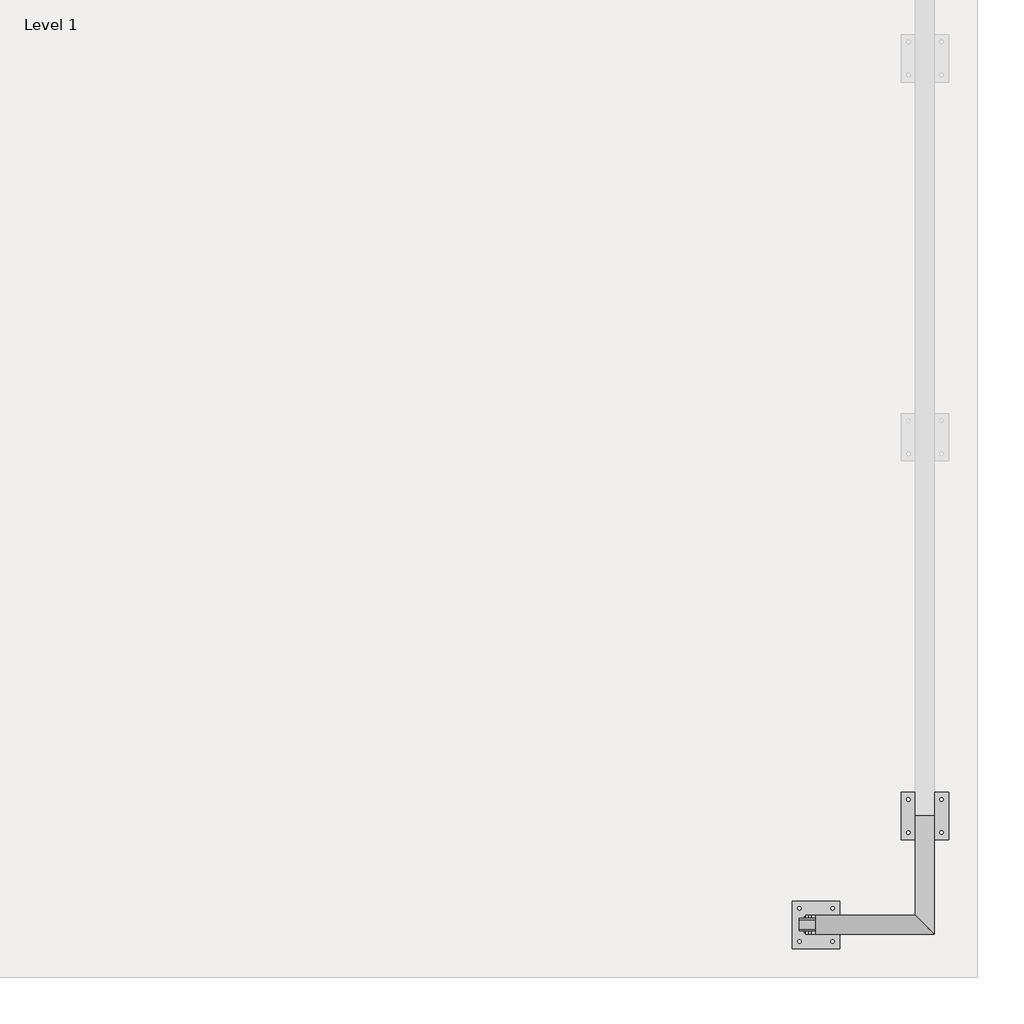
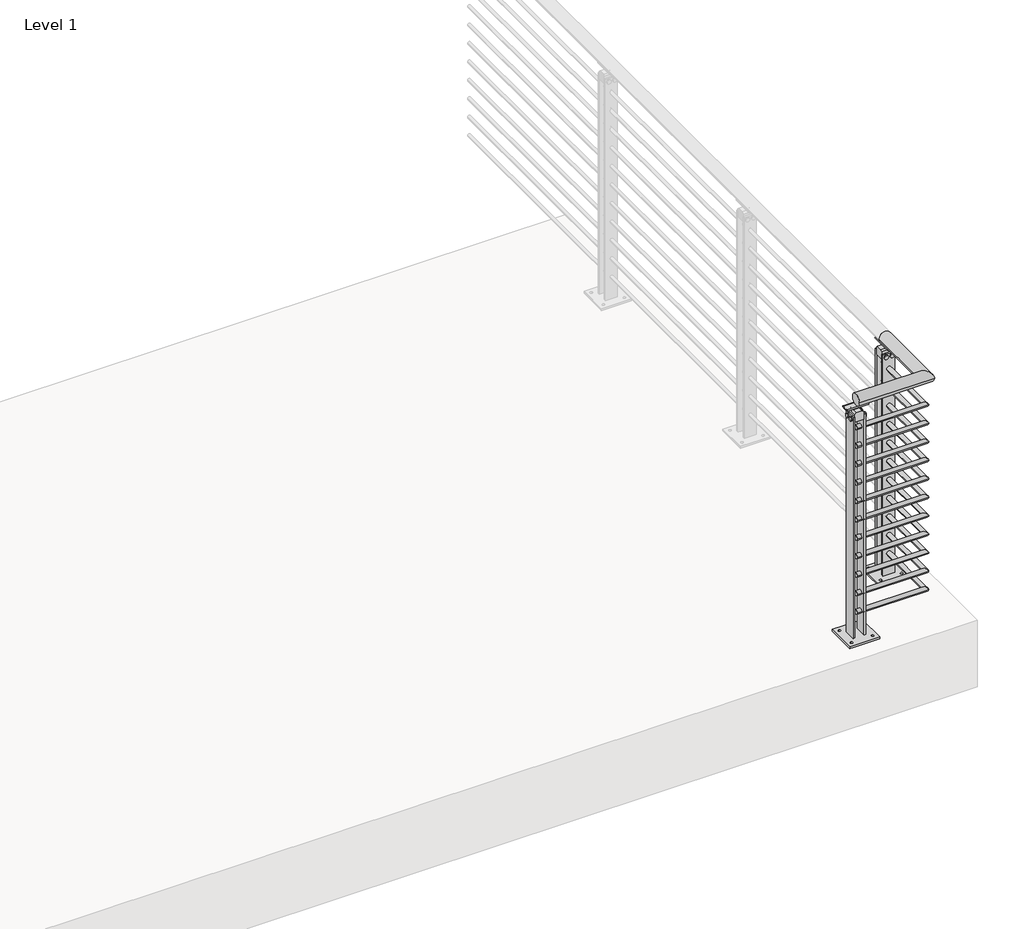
# One storey, part 7 of 36: 1 railing.
"""IFC4 building model written with IfcOpenShell, lengths in millimetres."""

from ifc_helpers import new_model, si_unit, point, frame, frame_2d, origin, origin_with_axes, place, context, project, spatial, polyline, circle_curve, ellipse_curve, trimmed, segment, composite_curve, outline, extrude, element, save
from ifc_brep_helpers import plane_surface, cylinder_surface, revolved_surface, advanced_brep

model = new_model("IFC4")

# Units and contexts
model_context = context("Model", 3, world=origin())
ifc_project = project(units=[si_unit("LENGTHUNIT", "METRE", prefix="MILLI")], contexts=[model_context])

# Site, building, storey
site = spatial("IfcSite", under=ifc_project)
building = spatial("IfcBuilding", under=site)
storey = spatial("IfcBuildingStorey", under=building, Name="Level 1", Elevation=0.0)

# Railing
placement = place(None, origin())
element("IfcRailing", 1, ObjectType="VIVA-BLADE-Multiline-Floor Mount-Corner", at=placement, inside=storey, context=model_context, shape_type="SolidModel", body=[
    advanced_brep(
    [(19310.5155247, -74900.9334719, 1054.1), (19310.5155247, -74850.1334719, 1054.1), (19628.0155247, -74900.9334719, 1054.1), (19577.2155247, -74850.1334719, 1054.1), (19628.0155247, -74583.4334719, 1054.1), (19577.2155247, -74583.4334719, 1054.1)],
    [
        (0, 1, circle_curve(frame((19310.5155247, -74875.5334719, 1054.1), z_axis=(-1.0, 0.0, 0.0), x_axis=(0.0, 1.0, 0.0)), 25.4)),
        (1, 0, circle_curve(frame((19310.5155247, -74875.5334719, 1054.1), z_axis=(-1.0, 0.0, 0.0), x_axis=(0.0, 1.0, 0.0)), 25.4)),
        (0, 2),
        (2, 3, ellipse_curve(frame((19602.6155247, -74875.5334719, 1054.1), z_axis=(-0.7071067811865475, -0.7071067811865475, 0.0), x_axis=(-0.7071067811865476, 0.7071067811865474, 0.0)), 35.9210245, 25.4)),
        (3, 1),
        (3, 2, ellipse_curve(frame((19602.6155247, -74875.5334719, 1054.1), z_axis=(-0.7071067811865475, -0.7071067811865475, 0.0), x_axis=(-0.7071067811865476, 0.7071067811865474, 0.0)), 35.9210245, 25.4)),
        (4, 5, circle_curve(frame((19602.6155247, -74583.4334719, 1054.1), z_axis=(0.0, 1.0, 0.0), x_axis=(-1.0, 0.0, 0.0)), 25.4)),
        (5, 4, circle_curve(frame((19602.6155247, -74583.4334719, 1054.1), z_axis=(0.0, 1.0, 0.0), x_axis=(-1.0, 0.0, 0.0)), 25.4)),
        (2, 4),
        (5, 3),
    ],
    [
        plane_surface(frame((19310.5155247, -74875.5334719, 1079.5), z_axis=(-1.0, 0.0, 0.0), x_axis=(0.0, 1.0, 0.0))),
        cylinder_surface(frame((19310.5155247, -74875.5334719, 1054.1), z_axis=(-1.0, 0.0, 0.0), x_axis=(0.0, 1.0, 0.0)), 25.4),
        plane_surface(frame((19602.6155247, -74583.4334719, 1079.5), z_axis=(0.0, 1.0, 0.0), x_axis=(0.0, 0.0, 1.0))),
        cylinder_surface(frame((19602.6155247, -74875.5334719, 1054.1), z_axis=(0.0, -1.0, 0.0), x_axis=(-1.0, 0.0, 0.0)), 25.4),
    ],
    [
        (0, [[1, 2]]),
        (1, [[-1, 3, 4, 5]]),
        (1, [[-2, -5, 6, -3]]),
        (2, [[7, 8]]),
        (3, [[-4, 9, -8, 10]]),
        (3, [[-6, -10, -7, -9]]),
    ],
),
    advanced_brep(
    [(19310.5155247, -74866.0084719, 930.275), (19310.5155247, -74885.0584719, 930.275), (19593.0905247, -74866.0084719, 930.275), (19612.1405247, -74885.0584719, 930.275), (19593.0905247, -74583.4334719, 930.275), (19612.1405247, -74583.4334719, 930.275)],
    [
        (0, 1, circle_curve(frame((19310.5155247, -74875.5334719, 930.275), z_axis=(-1.0, 0.0, 0.0), x_axis=(0.0, -1.0, 0.0)), 9.525)),
        (1, 0, circle_curve(frame((19310.5155247, -74875.5334719, 930.275), z_axis=(-1.0, 0.0, 0.0), x_axis=(0.0, -1.0, 0.0)), 9.525)),
        (0, 2),
        (2, 3, ellipse_curve(frame((19602.6155247, -74875.5334719, 930.275), z_axis=(-0.7071067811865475, -0.7071067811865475, 0.0), x_axis=(-0.7071067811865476, 0.7071067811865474, 0.0)), 13.4703842, 9.525)),
        (3, 1),
        (3, 2, ellipse_curve(frame((19602.6155247, -74875.5334719, 930.275), z_axis=(-0.7071067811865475, -0.7071067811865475, 0.0), x_axis=(-0.7071067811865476, 0.7071067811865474, 0.0)), 13.4703842, 9.525)),
        (4, 5, circle_curve(frame((19602.6155247, -74583.4334719, 930.275), z_axis=(0.0, 1.0, 0.0), x_axis=(1.0, 0.0, 0.0)), 9.525)),
        (5, 4, circle_curve(frame((19602.6155247, -74583.4334719, 930.275), z_axis=(0.0, 1.0, 0.0), x_axis=(1.0, 0.0, 0.0)), 9.525)),
        (2, 4),
        (5, 3),
    ],
    [
        plane_surface(frame((19310.5155247, -74875.5334719, 939.8), z_axis=(-1.0, 0.0, 0.0), x_axis=(0.0, 1.0, 0.0))),
        cylinder_surface(frame((19310.5155247, -74875.5334719, 930.275), z_axis=(-1.0, 0.0, 0.0), x_axis=(0.0, -1.0, 0.0)), 9.525),
        plane_surface(frame((19602.6155247, -74583.4334719, 939.8), z_axis=(0.0, 1.0, 0.0), x_axis=(0.0, 0.0, 1.0))),
        cylinder_surface(frame((19602.6155247, -74875.5334719, 930.275), z_axis=(0.0, -1.0, 0.0), x_axis=(1.0, 0.0, 0.0)), 9.525),
    ],
    [
        (0, [[1, 2]]),
        (1, [[-1, 3, 4, 5]]),
        (1, [[-2, -5, 6, -3]]),
        (2, [[7, 8]]),
        (3, [[-4, 9, -8, 10]]),
        (3, [[-6, -10, -7, -9]]),
    ],
),
    advanced_brep(
    [(19310.5155247, -74866.0084719, 847.725), (19310.5155247, -74885.0584719, 847.725), (19593.0905247, -74866.0084719, 847.725), (19612.1405247, -74885.0584719, 847.725), (19593.0905247, -74583.4334719, 847.725), (19612.1405247, -74583.4334719, 847.725)],
    [
        (0, 1, circle_curve(frame((19310.5155247, -74875.5334719, 847.725), z_axis=(-1.0, 0.0, 0.0), x_axis=(0.0, -1.0, 0.0)), 9.525)),
        (1, 0, circle_curve(frame((19310.5155247, -74875.5334719, 847.725), z_axis=(-1.0, 0.0, 0.0), x_axis=(0.0, -1.0, 0.0)), 9.525)),
        (0, 2),
        (2, 3, ellipse_curve(frame((19602.6155247, -74875.5334719, 847.725), z_axis=(-0.7071067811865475, -0.7071067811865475, 0.0), x_axis=(-0.7071067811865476, 0.7071067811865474, 0.0)), 13.4703842, 9.525)),
        (3, 1),
        (3, 2, ellipse_curve(frame((19602.6155247, -74875.5334719, 847.725), z_axis=(-0.7071067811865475, -0.7071067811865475, 0.0), x_axis=(-0.7071067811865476, 0.7071067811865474, 0.0)), 13.4703842, 9.525)),
        (4, 5, circle_curve(frame((19602.6155247, -74583.4334719, 847.725), z_axis=(0.0, 1.0, 0.0), x_axis=(1.0, 0.0, 0.0)), 9.525)),
        (5, 4, circle_curve(frame((19602.6155247, -74583.4334719, 847.725), z_axis=(0.0, 1.0, 0.0), x_axis=(1.0, 0.0, 0.0)), 9.525)),
        (2, 4),
        (5, 3),
    ],
    [
        plane_surface(frame((19310.5155247, -74875.5334719, 857.25), z_axis=(-1.0, 0.0, 0.0), x_axis=(0.0, 1.0, 0.0))),
        cylinder_surface(frame((19310.5155247, -74875.5334719, 847.725), z_axis=(-1.0, 0.0, 0.0), x_axis=(0.0, -1.0, 0.0)), 9.525),
        plane_surface(frame((19602.6155247, -74583.4334719, 857.25), z_axis=(0.0, 1.0, 0.0), x_axis=(0.0, 0.0, 1.0))),
        cylinder_surface(frame((19602.6155247, -74875.5334719, 847.725), z_axis=(0.0, -1.0, 0.0), x_axis=(1.0, 0.0, 0.0)), 9.525),
    ],
    [
        (0, [[1, 2]]),
        (1, [[-1, 3, 4, 5]]),
        (1, [[-2, -5, 6, -3]]),
        (2, [[7, 8]]),
        (3, [[-4, 9, -8, 10]]),
        (3, [[-6, -10, -7, -9]]),
    ],
),
    advanced_brep(
    [(19310.5155247, -74866.0084719, 765.175), (19310.5155247, -74885.0584719, 765.175), (19593.0905247, -74866.0084719, 765.175), (19612.1405247, -74885.0584719, 765.175), (19593.0905247, -74583.4334719, 765.175), (19612.1405247, -74583.4334719, 765.175)],
    [
        (0, 1, circle_curve(frame((19310.5155247, -74875.5334719, 765.175), z_axis=(-1.0, 0.0, 0.0), x_axis=(0.0, -1.0, 0.0)), 9.525)),
        (1, 0, circle_curve(frame((19310.5155247, -74875.5334719, 765.175), z_axis=(-1.0, 0.0, 0.0), x_axis=(0.0, -1.0, 0.0)), 9.525)),
        (0, 2),
        (2, 3, ellipse_curve(frame((19602.6155247, -74875.5334719, 765.175), z_axis=(-0.7071067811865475, -0.7071067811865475, 0.0), x_axis=(-0.7071067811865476, 0.7071067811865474, 0.0)), 13.4703842, 9.525)),
        (3, 1),
        (3, 2, ellipse_curve(frame((19602.6155247, -74875.5334719, 765.175), z_axis=(-0.7071067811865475, -0.7071067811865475, 0.0), x_axis=(-0.7071067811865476, 0.7071067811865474, 0.0)), 13.4703842, 9.525)),
        (4, 5, circle_curve(frame((19602.6155247, -74583.4334719, 765.175), z_axis=(0.0, 1.0, 0.0), x_axis=(1.0, 0.0, 0.0)), 9.525)),
        (5, 4, circle_curve(frame((19602.6155247, -74583.4334719, 765.175), z_axis=(0.0, 1.0, 0.0), x_axis=(1.0, 0.0, 0.0)), 9.525)),
        (2, 4),
        (5, 3),
    ],
    [
        plane_surface(frame((19310.5155247, -74875.5334719, 774.7), z_axis=(-1.0, 0.0, 0.0), x_axis=(0.0, 1.0, 0.0))),
        cylinder_surface(frame((19310.5155247, -74875.5334719, 765.175), z_axis=(-1.0, 0.0, 0.0), x_axis=(0.0, -1.0, 0.0)), 9.525),
        plane_surface(frame((19602.6155247, -74583.4334719, 774.7), z_axis=(0.0, 1.0, 0.0), x_axis=(0.0, 0.0, 1.0))),
        cylinder_surface(frame((19602.6155247, -74875.5334719, 765.175), z_axis=(0.0, -1.0, 0.0), x_axis=(1.0, 0.0, 0.0)), 9.525),
    ],
    [
        (0, [[1, 2]]),
        (1, [[-1, 3, 4, 5]]),
        (1, [[-2, -5, 6, -3]]),
        (2, [[7, 8]]),
        (3, [[-4, 9, -8, 10]]),
        (3, [[-6, -10, -7, -9]]),
    ],
),
    advanced_brep(
    [(19310.5155247, -74866.0084719, 682.625), (19310.5155247, -74885.0584719, 682.625), (19593.0905247, -74866.0084719, 682.625), (19612.1405247, -74885.0584719, 682.625), (19593.0905247, -74583.4334719, 682.625), (19612.1405247, -74583.4334719, 682.625)],
    [
        (0, 1, circle_curve(frame((19310.5155247, -74875.5334719, 682.625), z_axis=(-1.0, 0.0, 0.0), x_axis=(0.0, -1.0, 0.0)), 9.525)),
        (1, 0, circle_curve(frame((19310.5155247, -74875.5334719, 682.625), z_axis=(-1.0, 0.0, 0.0), x_axis=(0.0, -1.0, 0.0)), 9.525)),
        (0, 2),
        (2, 3, ellipse_curve(frame((19602.6155247, -74875.5334719, 682.625), z_axis=(-0.7071067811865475, -0.7071067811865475, 0.0), x_axis=(-0.7071067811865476, 0.7071067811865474, 0.0)), 13.4703842, 9.525)),
        (3, 1),
        (3, 2, ellipse_curve(frame((19602.6155247, -74875.5334719, 682.625), z_axis=(-0.7071067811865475, -0.7071067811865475, 0.0), x_axis=(-0.7071067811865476, 0.7071067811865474, 0.0)), 13.4703842, 9.525)),
        (4, 5, circle_curve(frame((19602.6155247, -74583.4334719, 682.625), z_axis=(0.0, 1.0, 0.0), x_axis=(1.0, 0.0, 0.0)), 9.525)),
        (5, 4, circle_curve(frame((19602.6155247, -74583.4334719, 682.625), z_axis=(0.0, 1.0, 0.0), x_axis=(1.0, 0.0, 0.0)), 9.525)),
        (2, 4),
        (5, 3),
    ],
    [
        plane_surface(frame((19310.5155247, -74875.5334719, 692.15), z_axis=(-1.0, 0.0, 0.0), x_axis=(0.0, 1.0, 0.0))),
        cylinder_surface(frame((19310.5155247, -74875.5334719, 682.625), z_axis=(-1.0, 0.0, 0.0), x_axis=(0.0, -1.0, 0.0)), 9.525),
        plane_surface(frame((19602.6155247, -74583.4334719, 692.15), z_axis=(0.0, 1.0, 0.0), x_axis=(0.0, 0.0, 1.0))),
        cylinder_surface(frame((19602.6155247, -74875.5334719, 682.625), z_axis=(0.0, -1.0, 0.0), x_axis=(1.0, 0.0, 0.0)), 9.525),
    ],
    [
        (0, [[1, 2]]),
        (1, [[-1, 3, 4, 5]]),
        (1, [[-2, -5, 6, -3]]),
        (2, [[7, 8]]),
        (3, [[-4, 9, -8, 10]]),
        (3, [[-6, -10, -7, -9]]),
    ],
),
    advanced_brep(
    [(19310.5155247, -74866.0084719, 600.075), (19310.5155247, -74885.0584719, 600.075), (19593.0905247, -74866.0084719, 600.075), (19612.1405247, -74885.0584719, 600.075), (19593.0905247, -74583.4334719, 600.075), (19612.1405247, -74583.4334719, 600.075)],
    [
        (0, 1, circle_curve(frame((19310.5155247, -74875.5334719, 600.075), z_axis=(-1.0, 0.0, 0.0), x_axis=(0.0, -1.0, 0.0)), 9.525)),
        (1, 0, circle_curve(frame((19310.5155247, -74875.5334719, 600.075), z_axis=(-1.0, 0.0, 0.0), x_axis=(0.0, -1.0, 0.0)), 9.525)),
        (0, 2),
        (2, 3, ellipse_curve(frame((19602.6155247, -74875.5334719, 600.075), z_axis=(-0.7071067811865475, -0.7071067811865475, 0.0), x_axis=(-0.7071067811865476, 0.7071067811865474, 0.0)), 13.4703842, 9.525)),
        (3, 1),
        (3, 2, ellipse_curve(frame((19602.6155247, -74875.5334719, 600.075), z_axis=(-0.7071067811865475, -0.7071067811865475, 0.0), x_axis=(-0.7071067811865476, 0.7071067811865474, 0.0)), 13.4703842, 9.525)),
        (4, 5, circle_curve(frame((19602.6155247, -74583.4334719, 600.075), z_axis=(0.0, 1.0, 0.0), x_axis=(1.0, 0.0, 0.0)), 9.525)),
        (5, 4, circle_curve(frame((19602.6155247, -74583.4334719, 600.075), z_axis=(0.0, 1.0, 0.0), x_axis=(1.0, 0.0, 0.0)), 9.525)),
        (2, 4),
        (5, 3),
    ],
    [
        plane_surface(frame((19310.5155247, -74875.5334719, 609.6), z_axis=(-1.0, 0.0, 0.0), x_axis=(0.0, 1.0, 0.0))),
        cylinder_surface(frame((19310.5155247, -74875.5334719, 600.075), z_axis=(-1.0, 0.0, 0.0), x_axis=(0.0, -1.0, 0.0)), 9.525),
        plane_surface(frame((19602.6155247, -74583.4334719, 609.6), z_axis=(0.0, 1.0, 0.0), x_axis=(0.0, 0.0, 1.0))),
        cylinder_surface(frame((19602.6155247, -74875.5334719, 600.075), z_axis=(0.0, -1.0, 0.0), x_axis=(1.0, 0.0, 0.0)), 9.525),
    ],
    [
        (0, [[1, 2]]),
        (1, [[-1, 3, 4, 5]]),
        (1, [[-2, -5, 6, -3]]),
        (2, [[7, 8]]),
        (3, [[-4, 9, -8, 10]]),
        (3, [[-6, -10, -7, -9]]),
    ],
),
    advanced_brep(
    [(19310.5155247, -74866.0084719, 517.525), (19310.5155247, -74885.0584719, 517.525), (19593.0905247, -74866.0084719, 517.525), (19612.1405247, -74885.0584719, 517.525), (19593.0905247, -74583.4334719, 517.525), (19612.1405247, -74583.4334719, 517.525)],
    [
        (0, 1, circle_curve(frame((19310.5155247, -74875.5334719, 517.525), z_axis=(-1.0, 0.0, 0.0), x_axis=(0.0, -1.0, 0.0)), 9.525)),
        (1, 0, circle_curve(frame((19310.5155247, -74875.5334719, 517.525), z_axis=(-1.0, 0.0, 0.0), x_axis=(0.0, -1.0, 0.0)), 9.525)),
        (0, 2),
        (2, 3, ellipse_curve(frame((19602.6155247, -74875.5334719, 517.525), z_axis=(-0.7071067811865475, -0.7071067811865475, 0.0), x_axis=(-0.7071067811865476, 0.7071067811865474, 0.0)), 13.4703842, 9.525)),
        (3, 1),
        (3, 2, ellipse_curve(frame((19602.6155247, -74875.5334719, 517.525), z_axis=(-0.7071067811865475, -0.7071067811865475, 0.0), x_axis=(-0.7071067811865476, 0.7071067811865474, 0.0)), 13.4703842, 9.525)),
        (4, 5, circle_curve(frame((19602.6155247, -74583.4334719, 517.525), z_axis=(0.0, 1.0, 0.0), x_axis=(1.0, 0.0, 0.0)), 9.525)),
        (5, 4, circle_curve(frame((19602.6155247, -74583.4334719, 517.525), z_axis=(0.0, 1.0, 0.0), x_axis=(1.0, 0.0, 0.0)), 9.525)),
        (2, 4),
        (5, 3),
    ],
    [
        plane_surface(frame((19310.5155247, -74875.5334719, 527.05), z_axis=(-1.0, 0.0, 0.0), x_axis=(0.0, 1.0, 0.0))),
        cylinder_surface(frame((19310.5155247, -74875.5334719, 517.525), z_axis=(-1.0, 0.0, 0.0), x_axis=(0.0, -1.0, 0.0)), 9.525),
        plane_surface(frame((19602.6155247, -74583.4334719, 527.05), z_axis=(0.0, 1.0, 0.0), x_axis=(0.0, 0.0, 1.0))),
        cylinder_surface(frame((19602.6155247, -74875.5334719, 517.525), z_axis=(0.0, -1.0, 0.0), x_axis=(1.0, 0.0, 0.0)), 9.525),
    ],
    [
        (0, [[1, 2]]),
        (1, [[-1, 3, 4, 5]]),
        (1, [[-2, -5, 6, -3]]),
        (2, [[7, 8]]),
        (3, [[-4, 9, -8, 10]]),
        (3, [[-6, -10, -7, -9]]),
    ],
),
    advanced_brep(
    [(19310.5155247, -74866.0084719, 434.975), (19310.5155247, -74885.0584719, 434.975), (19593.0905247, -74866.0084719, 434.975), (19612.1405247, -74885.0584719, 434.975), (19593.0905247, -74583.4334719, 434.975), (19612.1405247, -74583.4334719, 434.975)],
    [
        (0, 1, circle_curve(frame((19310.5155247, -74875.5334719, 434.975), z_axis=(-1.0, 0.0, 0.0), x_axis=(0.0, -1.0, 0.0)), 9.525)),
        (1, 0, circle_curve(frame((19310.5155247, -74875.5334719, 434.975), z_axis=(-1.0, 0.0, 0.0), x_axis=(0.0, -1.0, 0.0)), 9.525)),
        (0, 2),
        (2, 3, ellipse_curve(frame((19602.6155247, -74875.5334719, 434.975), z_axis=(-0.7071067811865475, -0.7071067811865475, 0.0), x_axis=(-0.7071067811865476, 0.7071067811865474, 0.0)), 13.4703842, 9.525)),
        (3, 1),
        (3, 2, ellipse_curve(frame((19602.6155247, -74875.5334719, 434.975), z_axis=(-0.7071067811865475, -0.7071067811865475, 0.0), x_axis=(-0.7071067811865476, 0.7071067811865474, 0.0)), 13.4703842, 9.525)),
        (4, 5, circle_curve(frame((19602.6155247, -74583.4334719, 434.975), z_axis=(0.0, 1.0, 0.0), x_axis=(1.0, 0.0, 0.0)), 9.525)),
        (5, 4, circle_curve(frame((19602.6155247, -74583.4334719, 434.975), z_axis=(0.0, 1.0, 0.0), x_axis=(1.0, 0.0, 0.0)), 9.525)),
        (2, 4),
        (5, 3),
    ],
    [
        plane_surface(frame((19310.5155247, -74875.5334719, 444.5), z_axis=(-1.0, 0.0, 0.0), x_axis=(0.0, 1.0, 0.0))),
        cylinder_surface(frame((19310.5155247, -74875.5334719, 434.975), z_axis=(-1.0, 0.0, 0.0), x_axis=(0.0, -1.0, 0.0)), 9.525),
        plane_surface(frame((19602.6155247, -74583.4334719, 444.5), z_axis=(0.0, 1.0, 0.0), x_axis=(0.0, 0.0, 1.0))),
        cylinder_surface(frame((19602.6155247, -74875.5334719, 434.975), z_axis=(0.0, -1.0, 0.0), x_axis=(1.0, 0.0, 0.0)), 9.525),
    ],
    [
        (0, [[1, 2]]),
        (1, [[-1, 3, 4, 5]]),
        (1, [[-2, -5, 6, -3]]),
        (2, [[7, 8]]),
        (3, [[-4, 9, -8, 10]]),
        (3, [[-6, -10, -7, -9]]),
    ],
),
    advanced_brep(
    [(19310.5155247, -74866.0084719, 352.425), (19310.5155247, -74885.0584719, 352.425), (19593.0905247, -74866.0084719, 352.425), (19612.1405247, -74885.0584719, 352.425), (19593.0905247, -74583.4334719, 352.425), (19612.1405247, -74583.4334719, 352.425)],
    [
        (0, 1, circle_curve(frame((19310.5155247, -74875.5334719, 352.425), z_axis=(-1.0, 0.0, 0.0), x_axis=(0.0, -1.0, 0.0)), 9.525)),
        (1, 0, circle_curve(frame((19310.5155247, -74875.5334719, 352.425), z_axis=(-1.0, 0.0, 0.0), x_axis=(0.0, -1.0, 0.0)), 9.525)),
        (0, 2),
        (2, 3, ellipse_curve(frame((19602.6155247, -74875.5334719, 352.425), z_axis=(-0.7071067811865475, -0.7071067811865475, 0.0), x_axis=(-0.7071067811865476, 0.7071067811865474, 0.0)), 13.4703842, 9.525)),
        (3, 1),
        (3, 2, ellipse_curve(frame((19602.6155247, -74875.5334719, 352.425), z_axis=(-0.7071067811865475, -0.7071067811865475, 0.0), x_axis=(-0.7071067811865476, 0.7071067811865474, 0.0)), 13.4703842, 9.525)),
        (4, 5, circle_curve(frame((19602.6155247, -74583.4334719, 352.425), z_axis=(0.0, 1.0, 0.0), x_axis=(1.0, 0.0, 0.0)), 9.525)),
        (5, 4, circle_curve(frame((19602.6155247, -74583.4334719, 352.425), z_axis=(0.0, 1.0, 0.0), x_axis=(1.0, 0.0, 0.0)), 9.525)),
        (2, 4),
        (5, 3),
    ],
    [
        plane_surface(frame((19310.5155247, -74875.5334719, 361.95), z_axis=(-1.0, 0.0, 0.0), x_axis=(0.0, 1.0, 0.0))),
        cylinder_surface(frame((19310.5155247, -74875.5334719, 352.425), z_axis=(-1.0, 0.0, 0.0), x_axis=(0.0, -1.0, 0.0)), 9.525),
        plane_surface(frame((19602.6155247, -74583.4334719, 361.95), z_axis=(0.0, 1.0, 0.0), x_axis=(0.0, 0.0, 1.0))),
        cylinder_surface(frame((19602.6155247, -74875.5334719, 352.425), z_axis=(0.0, -1.0, 0.0), x_axis=(1.0, 0.0, 0.0)), 9.525),
    ],
    [
        (0, [[1, 2]]),
        (1, [[-1, 3, 4, 5]]),
        (1, [[-2, -5, 6, -3]]),
        (2, [[7, 8]]),
        (3, [[-4, 9, -8, 10]]),
        (3, [[-6, -10, -7, -9]]),
    ],
),
    advanced_brep(
    [(19310.5155247, -74866.0084719, 269.875), (19310.5155247, -74885.0584719, 269.875), (19593.0905247, -74866.0084719, 269.875), (19612.1405247, -74885.0584719, 269.875), (19593.0905247, -74583.4334719, 269.875), (19612.1405247, -74583.4334719, 269.875)],
    [
        (0, 1, circle_curve(frame((19310.5155247, -74875.5334719, 269.875), z_axis=(-1.0, 0.0, 0.0), x_axis=(0.0, -1.0, 0.0)), 9.525)),
        (1, 0, circle_curve(frame((19310.5155247, -74875.5334719, 269.875), z_axis=(-1.0, 0.0, 0.0), x_axis=(0.0, -1.0, 0.0)), 9.525)),
        (0, 2),
        (2, 3, ellipse_curve(frame((19602.6155247, -74875.5334719, 269.875), z_axis=(-0.7071067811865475, -0.7071067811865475, 0.0), x_axis=(-0.7071067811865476, 0.7071067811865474, 0.0)), 13.4703842, 9.525)),
        (3, 1),
        (3, 2, ellipse_curve(frame((19602.6155247, -74875.5334719, 269.875), z_axis=(-0.7071067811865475, -0.7071067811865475, 0.0), x_axis=(-0.7071067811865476, 0.7071067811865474, 0.0)), 13.4703842, 9.525)),
        (4, 5, circle_curve(frame((19602.6155247, -74583.4334719, 269.875), z_axis=(0.0, 1.0, 0.0), x_axis=(1.0, 0.0, 0.0)), 9.525)),
        (5, 4, circle_curve(frame((19602.6155247, -74583.4334719, 269.875), z_axis=(0.0, 1.0, 0.0), x_axis=(1.0, 0.0, 0.0)), 9.525)),
        (2, 4),
        (5, 3),
    ],
    [
        plane_surface(frame((19310.5155247, -74875.5334719, 279.4), z_axis=(-1.0, 0.0, 0.0), x_axis=(0.0, 1.0, 0.0))),
        cylinder_surface(frame((19310.5155247, -74875.5334719, 269.875), z_axis=(-1.0, 0.0, 0.0), x_axis=(0.0, -1.0, 0.0)), 9.525),
        plane_surface(frame((19602.6155247, -74583.4334719, 279.4), z_axis=(0.0, 1.0, 0.0), x_axis=(0.0, 0.0, 1.0))),
        cylinder_surface(frame((19602.6155247, -74875.5334719, 269.875), z_axis=(0.0, -1.0, 0.0), x_axis=(1.0, 0.0, 0.0)), 9.525),
    ],
    [
        (0, [[1, 2]]),
        (1, [[-1, 3, 4, 5]]),
        (1, [[-2, -5, 6, -3]]),
        (2, [[7, 8]]),
        (3, [[-4, 9, -8, 10]]),
        (3, [[-6, -10, -7, -9]]),
    ],
),
    advanced_brep(
    [(19310.5155247, -74866.0084719, 187.325), (19310.5155247, -74885.0584719, 187.325), (19593.0905247, -74866.0084719, 187.325), (19612.1405247, -74885.0584719, 187.325), (19593.0905247, -74583.4334719, 187.325), (19612.1405247, -74583.4334719, 187.325)],
    [
        (0, 1, circle_curve(frame((19310.5155247, -74875.5334719, 187.325), z_axis=(-1.0, 0.0, 0.0), x_axis=(0.0, -1.0, 0.0)), 9.525)),
        (1, 0, circle_curve(frame((19310.5155247, -74875.5334719, 187.325), z_axis=(-1.0, 0.0, 0.0), x_axis=(0.0, -1.0, 0.0)), 9.525)),
        (0, 2),
        (2, 3, ellipse_curve(frame((19602.6155247, -74875.5334719, 187.325), z_axis=(-0.7071067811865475, -0.7071067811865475, 0.0), x_axis=(-0.7071067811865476, 0.7071067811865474, 0.0)), 13.4703842, 9.525)),
        (3, 1),
        (3, 2, ellipse_curve(frame((19602.6155247, -74875.5334719, 187.325), z_axis=(-0.7071067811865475, -0.7071067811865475, 0.0), x_axis=(-0.7071067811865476, 0.7071067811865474, 0.0)), 13.4703842, 9.525)),
        (4, 5, circle_curve(frame((19602.6155247, -74583.4334719, 187.325), z_axis=(0.0, 1.0, 0.0), x_axis=(1.0, 0.0, 0.0)), 9.525)),
        (5, 4, circle_curve(frame((19602.6155247, -74583.4334719, 187.325), z_axis=(0.0, 1.0, 0.0), x_axis=(1.0, 0.0, 0.0)), 9.525)),
        (2, 4),
        (5, 3),
    ],
    [
        plane_surface(frame((19310.5155247, -74875.5334719, 196.85), z_axis=(-1.0, 0.0, 0.0), x_axis=(0.0, 1.0, 0.0))),
        cylinder_surface(frame((19310.5155247, -74875.5334719, 187.325), z_axis=(-1.0, 0.0, 0.0), x_axis=(0.0, -1.0, 0.0)), 9.525),
        plane_surface(frame((19602.6155247, -74583.4334719, 196.85), z_axis=(0.0, 1.0, 0.0), x_axis=(0.0, 0.0, 1.0))),
        cylinder_surface(frame((19602.6155247, -74875.5334719, 187.325), z_axis=(0.0, -1.0, 0.0), x_axis=(1.0, 0.0, 0.0)), 9.525),
    ],
    [
        (0, [[1, 2]]),
        (1, [[-1, 3, 4, 5]]),
        (1, [[-2, -5, 6, -3]]),
        (2, [[7, 8]]),
        (3, [[-4, 9, -8, 10]]),
        (3, [[-6, -10, -7, -9]]),
    ],
),
    advanced_brep(
    [(19310.5155247, -74866.0084719, 104.775), (19310.5155247, -74885.0584719, 104.775), (19593.0905247, -74866.0084719, 104.775), (19612.1405247, -74885.0584719, 104.775), (19593.0905247, -74583.4334719, 104.775), (19612.1405247, -74583.4334719, 104.775)],
    [
        (0, 1, circle_curve(frame((19310.5155247, -74875.5334719, 104.775), z_axis=(-1.0, 0.0, 0.0), x_axis=(0.0, -1.0, 0.0)), 9.525)),
        (1, 0, circle_curve(frame((19310.5155247, -74875.5334719, 104.775), z_axis=(-1.0, 0.0, 0.0), x_axis=(0.0, -1.0, 0.0)), 9.525)),
        (0, 2),
        (2, 3, ellipse_curve(frame((19602.6155247, -74875.5334719, 104.775), z_axis=(-0.7071067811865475, -0.7071067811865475, 0.0), x_axis=(-0.7071067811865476, 0.7071067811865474, 0.0)), 13.4703842, 9.525)),
        (3, 1),
        (3, 2, ellipse_curve(frame((19602.6155247, -74875.5334719, 104.775), z_axis=(-0.7071067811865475, -0.7071067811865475, 0.0), x_axis=(-0.7071067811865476, 0.7071067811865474, 0.0)), 13.4703842, 9.525)),
        (4, 5, circle_curve(frame((19602.6155247, -74583.4334719, 104.775), z_axis=(0.0, 1.0, 0.0), x_axis=(1.0, 0.0, 0.0)), 9.525)),
        (5, 4, circle_curve(frame((19602.6155247, -74583.4334719, 104.775), z_axis=(0.0, 1.0, 0.0), x_axis=(1.0, 0.0, 0.0)), 9.525)),
        (2, 4),
        (5, 3),
    ],
    [
        plane_surface(frame((19310.5155247, -74875.5334719, 114.3), z_axis=(-1.0, 0.0, 0.0), x_axis=(0.0, 1.0, 0.0))),
        cylinder_surface(frame((19310.5155247, -74875.5334719, 104.775), z_axis=(-1.0, 0.0, 0.0), x_axis=(0.0, -1.0, 0.0)), 9.525),
        plane_surface(frame((19602.6155247, -74583.4334719, 114.3), z_axis=(0.0, 1.0, 0.0), x_axis=(0.0, 0.0, 1.0))),
        cylinder_surface(frame((19602.6155247, -74875.5334719, 104.775), z_axis=(0.0, -1.0, 0.0), x_axis=(1.0, 0.0, 0.0)), 9.525),
    ],
    [
        (0, [[1, 2]]),
        (1, [[-1, 3, 4, 5]]),
        (1, [[-2, -5, 6, -3]]),
        (2, [[7, 8]]),
        (3, [[-4, 9, -8, 10]]),
        (3, [[-6, -10, -7, -9]]),
    ],
),
    advanced_brep(
    [(19589.8554011, -74538.1960719, 1032.0967655), (19614.7274656, -74538.1960719, 1031.9535285), (19617.5363959, -74538.1960719, 1027.1267745), (19586.0195037, -74538.1960719, 1027.707533), (19589.8554011, -74628.6708719, 1032.0967655), (19586.0195037, -74628.6708719, 1027.707533), (19617.6501893, -74628.6708719, 1027.1893964), (19614.8144377, -74628.6708719, 1032.0018447)],
    [
        (0, 1, circle_curve(frame((19602.419204, -74538.1960719, 1054.2115898), z_axis=(0.0, -1.0, 0.0), x_axis=(-1.0, 0.0, 0.0)), 25.4345159)),
        (1, 2, circle_curve(frame((19616.0590908, -74538.1960719, 1029.4993599), z_axis=(0.0, 1.0, 0.0), x_axis=(-1.0, 0.0, 0.0)), 2.7949225)),
        (2, 3, circle_curve(frame((19602.2857409, -74538.1960719, 1054.9742164), z_axis=(0.0, 1.0, 0.0), x_axis=(-1.0, 0.0, 0.0)), 31.75)),
        (3, 0, circle_curve(frame((19588.3078434, -74538.1960719, 1029.5784521), z_axis=(0.0, 1.0, 0.0), x_axis=(-1.0, 0.0, 0.0)), 2.9558141)),
        (4, 5, circle_curve(frame((19588.3078434, -74628.6708719, 1029.5784521), z_axis=(0.0, -1.0, 0.0), x_axis=(-1.0, 0.0, 0.0)), 2.9558141)),
        (5, 6, circle_curve(frame((19602.2857409, -74628.6708719, 1054.9742164), z_axis=(0.0, -1.0, 0.0), x_axis=(-1.0, 0.0, 0.0)), 31.75)),
        (6, 7, circle_curve(frame((19616.0590908, -74628.6708719, 1029.4993599), z_axis=(0.0, -1.0, 0.0), x_axis=(-1.0, 0.0, 0.0)), 2.7949225)),
        (7, 4, circle_curve(frame((19602.419204, -74628.6708719, 1054.2115898), z_axis=(0.0, 1.0, 0.0), x_axis=(-1.0, 0.0, 0.0)), 25.4345159)),
        (0, 4),
        (7, 1),
        (6, 2),
        (5, 3),
    ],
    [
        plane_surface(frame((19576.9846881, -74538.1960719, 1054.2115898), z_axis=(0.0, 1.0, 0.0), x_axis=(0.0, 0.0, -1.0))),
        plane_surface(frame((19576.9846881, -74628.6708719, 1054.2115898), z_axis=(0.0, -1.0, 0.0), x_axis=(0.0, 0.0, 1.0))),
        revolved_surface(polyline([(19576.9846881, -74628.6708719, 1054.2115898), (19576.9846881, -74538.1960719, 1054.2115898)]), (19602.419204, -74628.6708719, 1054.2115898), (0.0, -1.0, 0.0)),
        cylinder_surface(frame((19616.0590908, -74628.6708719, 1029.4993599), z_axis=(0.0, 1.0, 0.0), x_axis=(-1.0, 0.0, 0.0)), 2.7949225),
        cylinder_surface(frame((19602.2857409, -74628.6708719, 1054.9742164), z_axis=(0.0, 1.0, 0.0), x_axis=(-1.0, 0.0, 0.0)), 31.75),
        cylinder_surface(frame((19588.3078434, -74628.6708719, 1029.5784521), z_axis=(0.0, 1.0, 0.0), x_axis=(-1.0, 0.0, 0.0)), 2.9558141),
    ],
    [
        (0, [[1, 2, 3, 4]]),
        (1, [[5, 6, 7, 8]]),
        (2, [[-1, 9, -8, 10]]),
        (3, [[-2, -10, -7, 11]]),
        (4, [[-3, -11, -6, 12]]),
        (5, [[-4, -12, -5, -9]]),
    ],
),
    advanced_brep(
    [(19600.0755247, -74570.7334719, 1014.4125), (19600.0755247, -74596.1334719, 1014.4125), (19600.0755247, -74610.5013867, 1028.7804149), (19600.0755247, -74556.365557, 1028.7804149), (19605.1555247, -74570.7334719, 1014.4125), (19605.1555247, -74556.365557, 1028.7804149), (19605.1555247, -74610.5013867, 1028.7804149), (19605.1555247, -74596.1334719, 1014.4125)],
    [
        (0, 1),
        (1, 2, circle_curve(frame((19600.0755247, -74610.5013867, 1014.4125), z_axis=(1.0, 0.0, 0.0), x_axis=(0.0, -1.0, 0.0)), 14.3679149)),
        (2, 3),
        (3, 0, circle_curve(frame((19600.0755247, -74556.365557, 1014.4125), z_axis=(1.0, 0.0, 0.0), x_axis=(0.0, -1.0, 0.0)), 14.3679149)),
        (4, 5, circle_curve(frame((19605.1555247, -74556.365557, 1014.4125), z_axis=(-1.0, 0.0, 0.0), x_axis=(0.0, -1.0, 0.0)), 14.3679149)),
        (5, 6),
        (6, 7, circle_curve(frame((19605.1555247, -74610.5013867, 1014.4125), z_axis=(-1.0, 0.0, 0.0), x_axis=(0.0, -1.0, 0.0)), 14.3679149)),
        (7, 4),
        (0, 4),
        (7, 1),
        (6, 2),
        (5, 3),
    ],
    [
        plane_surface(frame((19600.0755247, -74596.1334719, 1014.4125), z_axis=(-1.0, 0.0, 0.0), x_axis=(0.0, -1.0, 0.0))),
        plane_surface(frame((19605.1555247, -74596.1334719, 1014.4125), z_axis=(1.0, 0.0, 0.0), x_axis=(0.0, 1.0, 0.0))),
        plane_surface(frame((19600.0755247, -74570.7334719, 1014.4125), z_axis=(0.0, 0.0, -1.0), x_axis=(1.0, 0.0, 0.0))),
        revolved_surface(polyline([(19605.1555247, -74624.86930159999, 1014.4125), (19600.0755247, -74624.86930159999, 1014.4125)]), (19605.1555247, -74610.5013867, 1014.4125), (1.0, 0.0, 0.0)),
        plane_surface(frame((19600.0755247, -74610.5013867, 1028.7804149), z_axis=(0.0, 0.0, 1.0), x_axis=(1.0, 0.0, 0.0))),
        revolved_surface(polyline([(19605.1555247, -74570.73347189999, 1014.4125), (19600.0755247, -74570.73347189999, 1014.4125)]), (19605.1555247, -74556.365557, 1014.4125), (1.0, 0.0, 0.0)),
    ],
    [
        (0, [[1, 2, 3, 4]]),
        (1, [[5, 6, 7, 8]]),
        (2, [[-1, 9, -8, 10]]),
        (3, [[-2, -10, -7, 11]]),
        (4, [[-3, -11, -6, 12]]),
        (5, [[-4, -12, -5, -9]]),
    ],
),
    extrude(outline(polyline([(19666.1143306, -74519.9454087), (19666.1143306, -74646.9454087), (19539.1167188, -74646.9454087), (19539.1167188, -74519.9454087), (19666.1143306, -74519.9454087)]), holes=[composite_curve([segment(trimmed(circle_curve(frame_2d((19647.0643306, -74627.8954087)), 4.7625), [point((19651.8268306, -74627.8954087))], [point((19642.3018306, -74627.8954087))], True, "CARTESIAN"), True, "CONTINUOUS"), segment(trimmed(circle_curve(frame_2d((19647.0643306, -74627.8954087)), 4.7625), [point((19642.3018306, -74627.8954087))], [point((19651.8268306, -74627.8954087))], True, "CARTESIAN"), True, "CONTINUOUS")], self_intersect=False), composite_curve([segment(trimmed(circle_curve(frame_2d((19558.1667188, -74627.8954087)), 4.7625), [point((19562.9292188, -74627.8954087))], [point((19553.4042188, -74627.8954087))], True, "CARTESIAN"), True, "CONTINUOUS"), segment(trimmed(circle_curve(frame_2d((19558.1667188, -74627.8954087)), 4.7625), [point((19553.4042188, -74627.8954087))], [point((19562.9292188, -74627.8954087))], True, "CARTESIAN"), True, "CONTINUOUS")], self_intersect=False), composite_curve([segment(trimmed(circle_curve(frame_2d((19558.1667188, -74538.9954087)), 4.7625), [point((19562.9292188, -74538.9954087))], [point((19553.4042188, -74538.9954087))], True, "CARTESIAN"), True, "CONTINUOUS"), segment(trimmed(circle_curve(frame_2d((19558.1667188, -74538.9954087)), 4.7625), [point((19553.4042188, -74538.9954087))], [point((19562.9292188, -74538.9954087))], True, "CARTESIAN"), True, "CONTINUOUS")], self_intersect=False), composite_curve([segment(trimmed(circle_curve(frame_2d((19647.0643306, -74538.9954087)), 4.7625), [point((19651.8268306, -74538.9954087))], [point((19642.3018306, -74538.9954087))], True, "CARTESIAN"), True, "CONTINUOUS"), segment(trimmed(circle_curve(frame_2d((19647.0643306, -74538.9954087)), 4.7625), [point((19642.3018306, -74538.9954087))], [point((19651.8268306, -74538.9954087))], True, "CARTESIAN"), True, "CONTINUOUS")], self_intersect=False)]), origin_with_axes(), (0.0, 0.0, 1.0), 9.525),
    extrude(outline(polyline([(19577.215728, -74610.5083075), (19577.215728, -74602.4834719), (19628.0180526, -74602.4834719), (19628.0180526, -74610.5083075), (19577.215728, -74610.5083075)])), origin_with_axes(), (0.0, 0.0, 1.0), 996.95),
    extrude(outline(composite_curve([segment(trimmed(circle_curve(frame_2d((986.0416929, 19615.3180016)), 8.89), [point((986.0416929, 19624.2080016))], [point((986.0416929, 19606.4280016))], False, "CARTESIAN"), True, "CONTINUOUS"), segment(trimmed(circle_curve(frame_2d((986.0416929, 19615.3180016)), 8.89), [point((986.0416929, 19606.4280016))], [point((986.0416929, 19624.2080016))], False, "CARTESIAN"), True, "CONTINUOUS")], self_intersect=False)), frame((0.0, -74615.1834719, 0.0), z_axis=(0.0, 1.0, 0.0), x_axis=(0.0, 0.0, 1.0)), (0.0, 0.0, 1.0), 63.4880631),
    extrude(outline(composite_curve([segment(trimmed(circle_curve(frame_2d((986.0416929, 19589.9181037)), 8.89), [point((986.0416929, 19598.8081037))], [point((986.0416929, 19581.0281037))], False, "CARTESIAN"), True, "CONTINUOUS"), segment(trimmed(circle_curve(frame_2d((986.0416929, 19589.9181037)), 8.89), [point((986.0416929, 19581.0281037))], [point((986.0416929, 19598.8081037))], False, "CARTESIAN"), True, "CONTINUOUS")], self_intersect=False)), frame((0.0, -74615.1834719, 0.0), z_axis=(0.0, 1.0, 0.0), x_axis=(0.0, 0.0, 1.0)), (0.0, 0.0, 1.0), 63.4880631),
    extrude(outline(polyline([(-74602.4834719, 974.7123), (-74602.4834719, 1008.0625), (-74596.1334719, 1014.4125), (-74570.7334719, 1014.4125), (-74564.3834719, 1008.0625), (-74564.3834719, 974.7123), (-74602.4834719, 974.7123)])), frame((19577.2155247, 0.0, 0.0), z_axis=(1.0, 0.0, 0.0), x_axis=(0.0, 1.0, 0.0)), (0.0, 0.0, 1.0), 50.8025279),
    extrude(outline(polyline([(19577.215728, -74564.3835099), (19577.215728, -74556.3825099), (19628.0180526, -74556.3825099), (19628.0180526, -74564.3835099), (19577.215728, -74564.3835099)])), origin_with_axes(), (0.0, 0.0, 1.0), 996.95),
    advanced_brep(
    [(19355.7529247, -74862.7733482, 1032.0967655), (19355.7529247, -74887.6454127, 1031.9535285), (19355.7529247, -74890.4543431, 1027.1267745), (19355.7529247, -74858.9374508, 1027.707533), (19265.2781247, -74862.7733482, 1032.0967655), (19265.2781247, -74858.9374508, 1027.707533), (19265.2781247, -74890.5681364, 1027.1893964), (19265.2781247, -74887.7323849, 1032.0018447)],
    [
        (0, 1, circle_curve(frame((19355.7529247, -74875.3371511, 1054.2115898), z_axis=(-1.0, 0.0, 0.0), x_axis=(0.0, 1.0, 0.0)), 25.4345159)),
        (1, 2, circle_curve(frame((19355.7529247, -74888.977038, 1029.4993599), z_axis=(1.0, 0.0, 0.0), x_axis=(0.0, 1.0, 0.0)), 2.7949225)),
        (2, 3, circle_curve(frame((19355.7529247, -74875.203688, 1054.9742164), z_axis=(1.0, 0.0, 0.0), x_axis=(0.0, 1.0, 0.0)), 31.75)),
        (3, 0, circle_curve(frame((19355.7529247, -74861.2257905, 1029.5784521), z_axis=(1.0, 0.0, 0.0), x_axis=(0.0, 1.0, 0.0)), 2.9558141)),
        (4, 5, circle_curve(frame((19265.2781247, -74861.2257905, 1029.5784521), z_axis=(-1.0, 0.0, 0.0), x_axis=(0.0, 1.0, 0.0)), 2.9558141)),
        (5, 6, circle_curve(frame((19265.2781247, -74875.203688, 1054.9742164), z_axis=(-1.0, 0.0, 0.0), x_axis=(0.0, 1.0, 0.0)), 31.75)),
        (6, 7, circle_curve(frame((19265.2781247, -74888.977038, 1029.4993599), z_axis=(-1.0, 0.0, 0.0), x_axis=(0.0, 1.0, 0.0)), 2.7949225)),
        (7, 4, circle_curve(frame((19265.2781247, -74875.3371511, 1054.2115898), z_axis=(1.0, 0.0, 0.0), x_axis=(0.0, 1.0, 0.0)), 25.4345159)),
        (0, 4),
        (7, 1),
        (6, 2),
        (5, 3),
    ],
    [
        plane_surface(frame((19355.7529247, -74849.9026353, 1054.2115898), z_axis=(1.0, 0.0, 0.0), x_axis=(0.0, 0.0, -1.0))),
        plane_surface(frame((19265.2781247, -74849.9026353, 1054.2115898), z_axis=(-1.0, 0.0, 0.0), x_axis=(0.0, 0.0, 1.0))),
        revolved_surface(polyline([(19265.2781247, -74849.90263520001, 1054.2115898), (19355.7529247, -74849.90263520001, 1054.2115898)]), (19265.2781247, -74875.3371511, 1054.2115898), (-1.0, 0.0, 0.0)),
        cylinder_surface(frame((19265.2781247, -74888.977038, 1029.4993599), z_axis=(1.0, 0.0, 0.0), x_axis=(0.0, 1.0, 0.0)), 2.7949225),
        cylinder_surface(frame((19265.2781247, -74875.203688, 1054.9742164), z_axis=(1.0, 0.0, 0.0), x_axis=(0.0, 1.0, 0.0)), 31.75),
        cylinder_surface(frame((19265.2781247, -74861.2257905, 1029.5784521), z_axis=(1.0, 0.0, 0.0), x_axis=(0.0, 1.0, 0.0)), 2.9558141),
    ],
    [
        (0, [[1, 2, 3, 4]]),
        (1, [[5, 6, 7, 8]]),
        (2, [[-1, 9, -8, 10]]),
        (3, [[-2, -10, -7, 11]]),
        (4, [[-3, -11, -6, 12]]),
        (5, [[-4, -12, -5, -9]]),
    ],
),
    advanced_brep(
    [(19323.2155247, -74872.9934719, 1014.4125), (19297.8155247, -74872.9934719, 1014.4125), (19283.4476098, -74872.9934719, 1028.7804149), (19337.5834396, -74872.9934719, 1028.7804149), (19323.2155247, -74878.0734719, 1014.4125), (19337.5834396, -74878.0734719, 1028.7804149), (19283.4476098, -74878.0734719, 1028.7804149), (19297.8155247, -74878.0734719, 1014.4125)],
    [
        (0, 1),
        (1, 2, circle_curve(frame((19283.4476098, -74872.9934719, 1014.4125), z_axis=(0.0, -1.0, 0.0), x_axis=(-1.0, 0.0, 0.0)), 14.3679149)),
        (2, 3),
        (3, 0, circle_curve(frame((19337.5834396, -74872.9934719, 1014.4125), z_axis=(0.0, -1.0, 0.0), x_axis=(-1.0, 0.0, 0.0)), 14.3679149)),
        (4, 5, circle_curve(frame((19337.5834396, -74878.0734719, 1014.4125), z_axis=(0.0, 1.0, 0.0), x_axis=(-1.0, 0.0, 0.0)), 14.3679149)),
        (5, 6),
        (6, 7, circle_curve(frame((19283.4476098, -74878.0734719, 1014.4125), z_axis=(0.0, 1.0, 0.0), x_axis=(-1.0, 0.0, 0.0)), 14.3679149)),
        (7, 4),
        (0, 4),
        (7, 1),
        (6, 2),
        (5, 3),
    ],
    [
        plane_surface(frame((19297.8155247, -74872.9934719, 1014.4125), z_axis=(0.0, 1.0, 0.0), x_axis=(-1.0, 0.0, 0.0))),
        plane_surface(frame((19297.8155247, -74878.0734719, 1014.4125), z_axis=(0.0, -1.0, 0.0), x_axis=(1.0, 0.0, 0.0))),
        plane_surface(frame((19323.2155247, -74872.9934719, 1014.4125), z_axis=(0.0, 0.0, -1.0), x_axis=(0.0, -1.0, 0.0))),
        revolved_surface(polyline([(19269.0796949, -74878.0734719, 1014.4125), (19269.0796949, -74872.9934719, 1014.4125)]), (19283.4476098, -74878.0734719, 1014.4125), (0.0, -1.0, 0.0)),
        plane_surface(frame((19283.4476098, -74872.9934719, 1028.7804149), z_axis=(0.0, 0.0, 1.0), x_axis=(0.0, -1.0, 0.0))),
        revolved_surface(polyline([(19323.215524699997, -74878.0734719, 1014.4125), (19323.215524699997, -74872.9934719, 1014.4125)]), (19337.5834396, -74878.0734719, 1014.4125), (0.0, -1.0, 0.0)),
    ],
    [
        (0, [[1, 2, 3, 4]]),
        (1, [[5, 6, 7, 8]]),
        (2, [[-1, 9, -8, 10]]),
        (3, [[-2, -10, -7, 11]]),
        (4, [[-3, -11, -6, 12]]),
        (5, [[-4, -12, -5, -9]]),
    ],
),
    extrude(outline(polyline([(19374.0035878, -74939.0322778), (19247.0035878, -74939.0322778), (19247.0035878, -74812.0346659), (19374.0035878, -74812.0346659), (19374.0035878, -74939.0322778)]), holes=[composite_curve([segment(trimmed(circle_curve(frame_2d((19266.0535878, -74919.9822778)), 4.7625), [point((19266.0535878, -74924.7447778))], [point((19266.0535878, -74915.2197778))], True, "CARTESIAN"), True, "CONTINUOUS"), segment(trimmed(circle_curve(frame_2d((19266.0535878, -74919.9822778)), 4.7625), [point((19266.0535878, -74915.2197778))], [point((19266.0535878, -74924.7447778))], True, "CARTESIAN"), True, "CONTINUOUS")], self_intersect=False), composite_curve([segment(trimmed(circle_curve(frame_2d((19266.0535878, -74831.0846659)), 4.7625), [point((19266.0535878, -74835.8471659))], [point((19266.0535878, -74826.3221659))], True, "CARTESIAN"), True, "CONTINUOUS"), segment(trimmed(circle_curve(frame_2d((19266.0535878, -74831.0846659)), 4.7625), [point((19266.0535878, -74826.3221659))], [point((19266.0535878, -74835.8471659))], True, "CARTESIAN"), True, "CONTINUOUS")], self_intersect=False), composite_curve([segment(trimmed(circle_curve(frame_2d((19354.9535878, -74831.0846659)), 4.7625), [point((19354.9535878, -74835.8471659))], [point((19354.9535878, -74826.3221659))], True, "CARTESIAN"), True, "CONTINUOUS"), segment(trimmed(circle_curve(frame_2d((19354.9535878, -74831.0846659)), 4.7625), [point((19354.9535878, -74826.3221659))], [point((19354.9535878, -74835.8471659))], True, "CARTESIAN"), True, "CONTINUOUS")], self_intersect=False), composite_curve([segment(trimmed(circle_curve(frame_2d((19354.9535878, -74919.9822778)), 4.7625), [point((19354.9535878, -74924.7447778))], [point((19354.9535878, -74915.2197778))], True, "CARTESIAN"), True, "CONTINUOUS"), segment(trimmed(circle_curve(frame_2d((19354.9535878, -74919.9822778)), 4.7625), [point((19354.9535878, -74915.2197778))], [point((19354.9535878, -74924.7447778))], True, "CARTESIAN"), True, "CONTINUOUS")], self_intersect=False)]), origin_with_axes(), (0.0, 0.0, 1.0), 9.525),
    extrude(outline(polyline([(19283.440689, -74850.1336752), (19291.4655247, -74850.1336752), (19291.4655247, -74900.9359998), (19283.440689, -74900.9359998), (19283.440689, -74850.1336752)])), origin_with_axes(), (0.0, 0.0, 1.0), 996.95),
    extrude(outline(composite_curve([segment(trimmed(circle_curve(frame_2d((-74888.2359488, 986.0416929)), 8.89), [point((-74897.1259488, 986.0416929))], [point((-74879.3459488, 986.0416929))], False, "CARTESIAN"), True, "CONTINUOUS"), segment(trimmed(circle_curve(frame_2d((-74888.2359488, 986.0416929)), 8.89), [point((-74879.3459488, 986.0416929))], [point((-74897.1259488, 986.0416929))], False, "CARTESIAN"), True, "CONTINUOUS")], self_intersect=False)), frame((19278.7655247, 0.0, 0.0), z_axis=(1.0, 0.0, 0.0), x_axis=(0.0, 1.0, 0.0)), (0.0, 0.0, 1.0), 63.4880631),
    extrude(outline(composite_curve([segment(trimmed(circle_curve(frame_2d((-74862.8360508, 986.0416929)), 8.89), [point((-74871.7260508, 986.0416929))], [point((-74853.9460508, 986.0416929))], False, "CARTESIAN"), True, "CONTINUOUS"), segment(trimmed(circle_curve(frame_2d((-74862.8360508, 986.0416929)), 8.89), [point((-74853.9460508, 986.0416929))], [point((-74871.7260508, 986.0416929))], False, "CARTESIAN"), True, "CONTINUOUS")], self_intersect=False)), frame((19278.7655247, 0.0, 0.0), z_axis=(1.0, 0.0, 0.0), x_axis=(0.0, 1.0, 0.0)), (0.0, 0.0, 1.0), 63.4880631),
    extrude(outline(polyline([(974.7123, 19291.4655247), (974.7123, 19329.5655247), (1008.0625, 19329.5655247), (1014.4125, 19323.2155247), (1014.4125, 19297.8155247), (1008.0625, 19291.4655247), (974.7123, 19291.4655247)])), frame((0.0, -74900.9359998, 0.0), z_axis=(0.0, 1.0, 0.0), x_axis=(0.0, 0.0, 1.0)), (0.0, 0.0, 1.0), 50.8025279),
    extrude(outline(polyline([(19329.5654867, -74850.1336752), (19337.5664867, -74850.1336752), (19337.5664867, -74900.9359998), (19329.5654867, -74900.9359998), (19329.5654867, -74850.1336752)])), origin_with_axes(), (0.0, 0.0, 1.0), 996.95),
])

save(model, "model.ifc")
